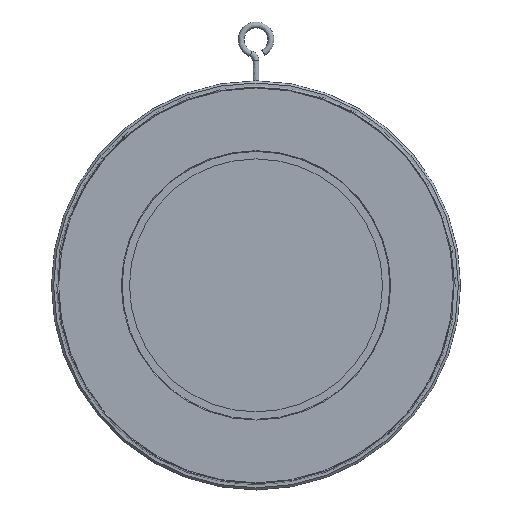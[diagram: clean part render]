
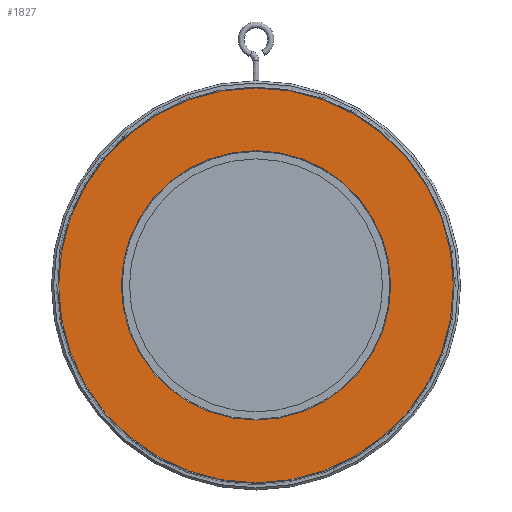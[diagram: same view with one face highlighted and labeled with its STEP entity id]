
A CAD part, left-side view. The second image highlights one B-rep face of the part: STEP entity #1827.
In plain terms, the highlighted planar face has unit normal (-1, 0, 0).
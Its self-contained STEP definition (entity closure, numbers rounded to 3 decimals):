
#569 = CARTESIAN_POINT ( 'NONE',  ( -25., 0., -181. ) ) ;
#776 = DIRECTION ( 'NONE',  ( 1., 0., 0. ) ) ;
#824 = FACE_BOUND ( 'NONE', #6204, .T. ) ;
#845 = AXIS2_PLACEMENT_3D ( 'NONE', #7224, #2162, #8068 ) ;
#1083 = CARTESIAN_POINT ( 'NONE',  ( -25., 0., 0. ) ) ;
#1084 = CIRCLE ( 'NONE', #8348, 181. ) ;
#1337 = CARTESIAN_POINT ( 'NONE',  ( -25., 0., 181. ) ) ;
#1351 = VERTEX_POINT ( 'NONE', #569 ) ;
#1679 = EDGE_CURVE ( 'NONE', #1351, #8486, #1084, .T. ) ;
#1698 = DIRECTION ( 'NONE',  ( 0., 0., -1. ) ) ;
#1732 = CIRCLE ( 'NONE', #845, 265.353 ) ;
#1827 = ADVANCED_FACE ( 'NONE', ( #824, #7014 ), #2490, .F. ) ;
#1931 = DIRECTION ( 'NONE',  ( 0., 0., 1. ) ) ;
#2005 = AXIS2_PLACEMENT_3D ( 'NONE', #5821, #776, #6671 ) ;
#2162 = DIRECTION ( 'NONE',  ( 1., 0., 0. ) ) ;
#2165 = ORIENTED_EDGE ( 'NONE', *, *, #4922, .T. ) ;
#2260 = VERTEX_POINT ( 'NONE', #4457 ) ;
#2490 = PLANE ( 'NONE',  #4713 ) ;
#4394 = ORIENTED_EDGE ( 'NONE', *, *, #1679, .T. ) ;
#4457 = CARTESIAN_POINT ( 'NONE',  ( -25., 0., 265.353 ) ) ;
#4687 = EDGE_CURVE ( 'NONE', #2260, #6356, #4935, .T. ) ;
#4713 = AXIS2_PLACEMENT_3D ( 'NONE', #5036, #6731, #1698 ) ;
#4922 = EDGE_CURVE ( 'NONE', #8486, #1351, #7599, .T. ) ;
#4935 = CIRCLE ( 'NONE', #8999, 265.353 ) ;
#5036 = CARTESIAN_POINT ( 'NONE',  ( -25., 0., 0. ) ) ;
#5821 = CARTESIAN_POINT ( 'NONE',  ( -25., 0., 0. ) ) ;
#6204 = EDGE_LOOP ( 'NONE', ( #2165, #4394 ) ) ;
#6356 = VERTEX_POINT ( 'NONE', #8774 ) ;
#6671 = DIRECTION ( 'NONE',  ( 0., 0., 1. ) ) ;
#6731 = DIRECTION ( 'NONE',  ( 1., 0., 0. ) ) ;
#6795 = EDGE_LOOP ( 'NONE', ( #10880, #7037 ) ) ;
#6977 = DIRECTION ( 'NONE',  ( 1., 0., 0. ) ) ;
#7014 = FACE_OUTER_BOUND ( 'NONE', #6795, .T. ) ;
#7037 = ORIENTED_EDGE ( 'NONE', *, *, #9370, .F. ) ;
#7224 = CARTESIAN_POINT ( 'NONE',  ( -25., 0., 0. ) ) ;
#7402 = CARTESIAN_POINT ( 'NONE',  ( -25., 0., 0. ) ) ;
#7599 = CIRCLE ( 'NONE', #2005, 181. ) ;
#8068 = DIRECTION ( 'NONE',  ( 0., 0., 1. ) ) ;
#8348 = AXIS2_PLACEMENT_3D ( 'NONE', #7402, #9290, #10154 ) ;
#8486 = VERTEX_POINT ( 'NONE', #1337 ) ;
#8774 = CARTESIAN_POINT ( 'NONE',  ( -25., 0., -265.353 ) ) ;
#8999 = AXIS2_PLACEMENT_3D ( 'NONE', #1083, #6977, #1931 ) ;
#9290 = DIRECTION ( 'NONE',  ( 1., 0., 0. ) ) ;
#9370 = EDGE_CURVE ( 'NONE', #6356, #2260, #1732, .T. ) ;
#10154 = DIRECTION ( 'NONE',  ( 0., 0., 1. ) ) ;
#10880 = ORIENTED_EDGE ( 'NONE', *, *, #4687, .F. ) ;
